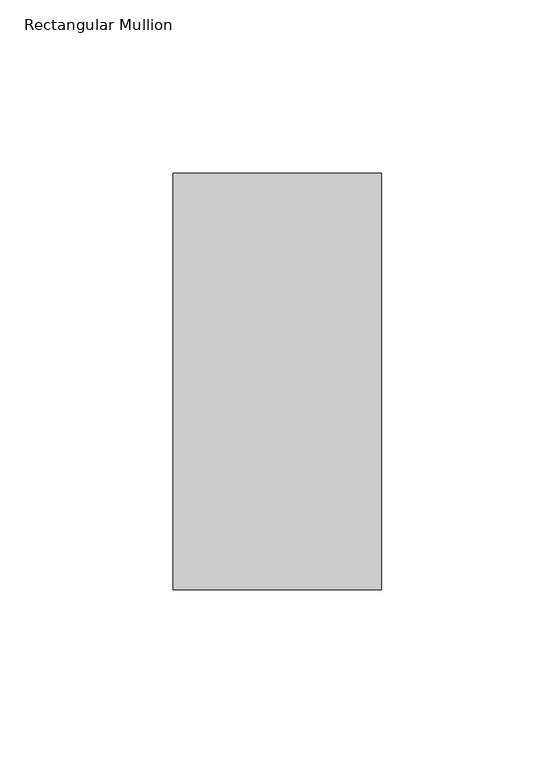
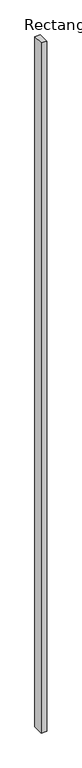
"""IFC4 building model written with IfcOpenShell, lengths in millimetres: member geometry, Rectangular Mullion : Terça."""

from ifc_helpers import new_model, si_unit, frame, origin, place, context, project, spatial, polyline, outline, extrude, source, transform, mapped, element, save


def rectangular_mullion_698b6ac7(model_context):
    return source(origin(), model_context, "Body", "SweptSolid", [
        extrude(outline(polyline([(30.0, -120.0), (-30.0, -120.0), (-30.0, 0.0), (30.0, 0.0), (30.0, -120.0)])), frame((0.0, 0.0, -8000.0), z_axis=(0.0, 0.0, 1.0), x_axis=(1.0, 0.0, 0.0)), (0.0, 0.0, 1.0), 8000.0),
    ])


if __name__ == "__main__":
    model = new_model("IFC4")
    model_context = context("Model", 3, world=origin())
    ifc_project = project(units=[si_unit("LENGTHUNIT", "METRE", prefix="MILLI")], contexts=[model_context])
    site = spatial("IfcSite", under=ifc_project)
    building = spatial("IfcBuilding", under=site)
    placement = place(None, origin())
    rectangular_mullion_shape = rectangular_mullion_698b6ac7(model_context)
    element("IfcMember", 1, ObjectType="Rectangular Mullion : Terça", at=placement, inside=building, context=model_context, shape_type="MappedRepresentation", body=[
        mapped(rectangular_mullion_shape, transform((0.0, 0.0, 0.0), x_axis=(1.0, 0.0, 0.0), y_axis=(0.0, 1.0, 0.0), z_axis=(0.0, 0.0, 1.0))),
    ])
    save(model, "model.ifc")
